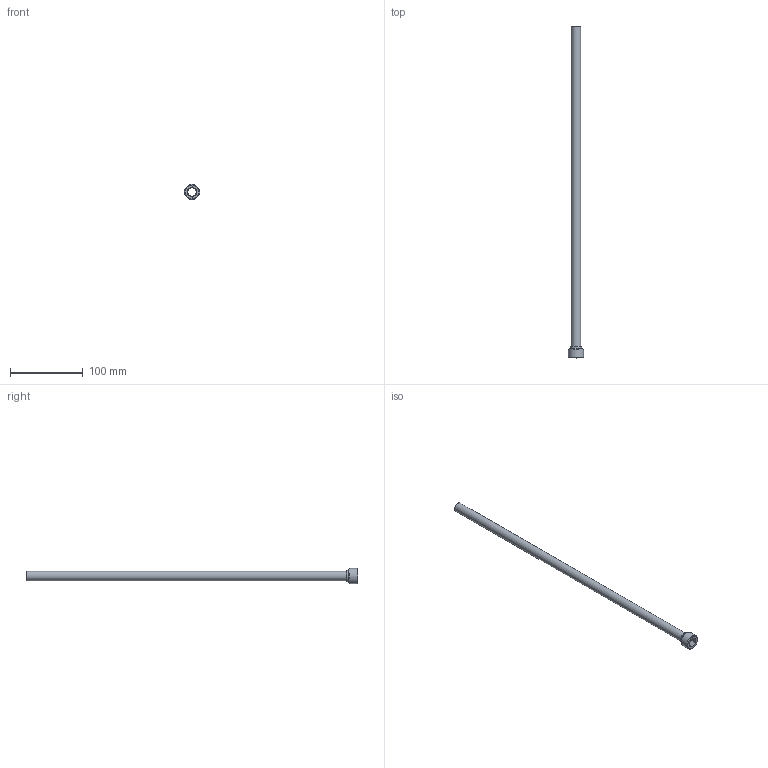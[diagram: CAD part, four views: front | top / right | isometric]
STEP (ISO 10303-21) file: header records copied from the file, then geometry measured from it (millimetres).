
FILE_DESCRIPTION(/* description */ (''),/* implementation_level */ '2;1');
FILE_NAME(/* name */ 'C:/Users/drich/Desktop/PT12-500-18 v1.step',/* time_stamp */ '2019-12-27T14:58:34-06:00',/* author */ (''),/* organization */ (''),/* preprocessor_version */ 'ST-DEVELOPER v18',/* originating_system */ 'Autodesk Translation Framework v8.12.0.6',/* authorisation */ '');
FILE_SCHEMA (('AUTOMOTIVE_DESIGN { 1 0 10303 214 3 1 1 }'));
Length unit declared in the file: inch
Products named in the file (1): PT12-500-18
Bounding box: 20.81 x 457.2 x 20.81 mm (x, y, z)
Volume: 14726.7 mm3; surface area: 35272.9 mm2
Topology: 1 solids, 1 shells, 19 faces, 48 edges, 34 vertices
Faces by surface type: plane 11, cylinder 4, torus 2, cone 2
Full cylindrical faces by diameter (mm): 11.278 x1, 12.7 x1, 15.85 x1, 20.813 x1
Entity records: 633 total; most frequent: DIRECTION 112, CARTESIAN_POINT 102, ORIENTED_EDGE 96, EDGE_CURVE 48, AXIS2_PLACEMENT_3D 44, VERTEX_POINT 34, CIRCLE 24, EDGE_LOOP 24
